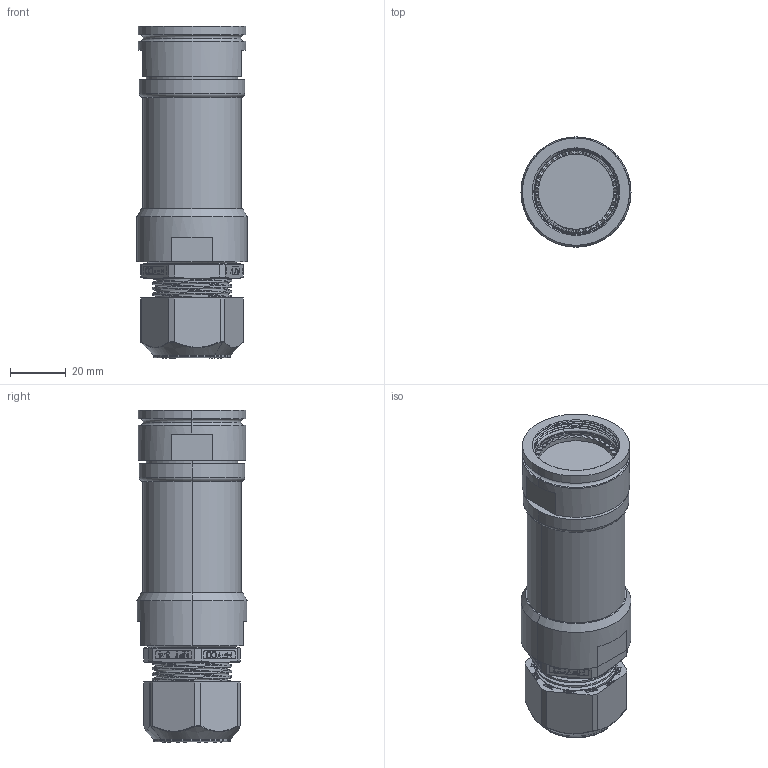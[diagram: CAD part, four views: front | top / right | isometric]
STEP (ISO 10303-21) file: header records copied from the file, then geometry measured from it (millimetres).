
FILE_DESCRIPTION (( 'STEP AP214' ), '1' );
FILE_NAME ('Q38SHELL-STX-21-XXXX-GL.STEP', '2025-09-09T22:27:34', ( '' ), ( '' ), 'SwSTEP 2.0', 'SolidWorks 2024', '' );
FILE_SCHEMA (( 'AUTOMOTIVE_DESIGN' ));
Length unit declared in the file: millimetre
Products named in the file (1): Q38SHELL-STX-21-XXXX-GL
Bounding box: 39.62 x 39.62 x 119.43 mm (x, y, z)
Surface area: 35611.6 mm2 (no closed solid volume)
Topology: 0 solids, 8 shells, 1363 faces, 3659 edges, 2366 vertices
Faces by surface type: plane 724, cylinder 237, bspline 140, torus 123, cone 119, sphere 20
Entity records: 63555 total; most frequent: CARTESIAN_POINT 36236, ORIENTED_EDGE 7269, EDGE_CURVE 3659, DIRECTION 3285, B_SPLINE_CURVE_WITH_KNOTS 2833, VERTEX_POINT 2366, AXIS2_PLACEMENT_3D 1504, EDGE_LOOP 1433
